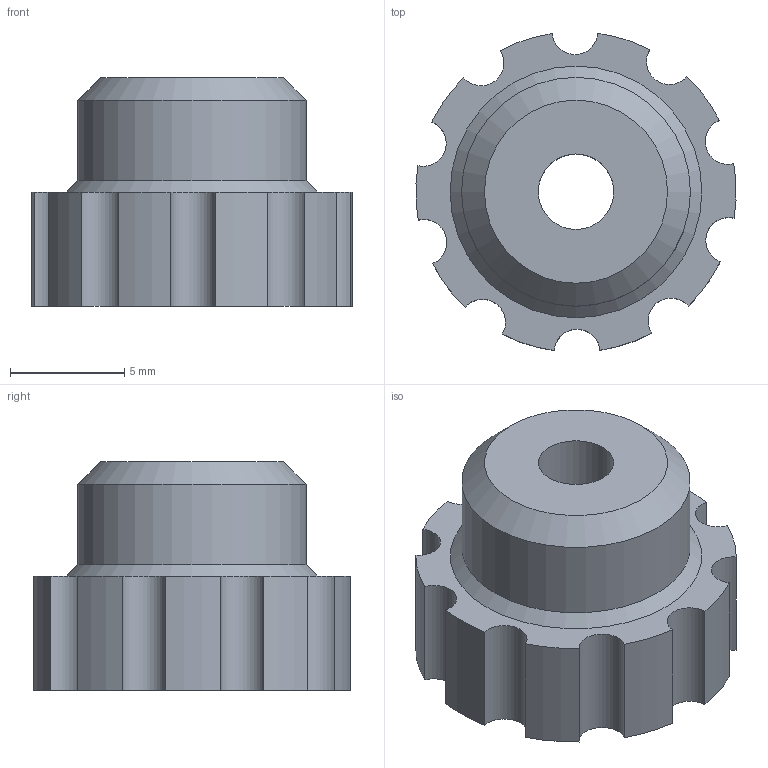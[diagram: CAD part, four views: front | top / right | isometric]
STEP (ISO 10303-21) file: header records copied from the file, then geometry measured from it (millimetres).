
FILE_DESCRIPTION(/* description */ (''),/* implementation_level */ '2;1');
FILE_NAME(/* name */ 'D:\3D печать\Мои проекты\Archy MK 2\STEP\MK3\колесо для концевика.stp',/* time_stamp */ '2019-07-18T21:43:22+06:00',/* author */ ('Пользователь'),/* organization */ (''),/* preprocessor_version */ 'ST-DEVELOPER v16.5',/* originating_system */ 'Autodesk Inventor 2017',/* authorisation */ '');
FILE_SCHEMA (('AUTOMOTIVE_DESIGN { 1 0 10303 214 3 1 1 }'));
Length unit declared in the file: millimetre
Products named in the file (1): колесо для \X2\043A
043E043D0446043504320438043A0430\X0\
Bounding box: 13.98 x 13.87 x 10 mm (x, y, z)
Volume: 931.8 mm3; surface area: 790.5 mm2
Topology: 1 solids, 1 shells, 34 faces, 89 edges, 59 vertices
Faces by surface type: cylinder 22, plane 10, cone 2
Full cylindrical faces by diameter (mm): 3.3 x1, 10 x1
Entity records: 1070 total; most frequent: DIRECTION 200, CARTESIAN_POINT 177, ORIENTED_EDGE 168, EDGE_CURVE 84, AXIS2_PLACEMENT_3D 81, VERTEX_POINT 58, CIRCLE 46, EDGE_LOOP 42
